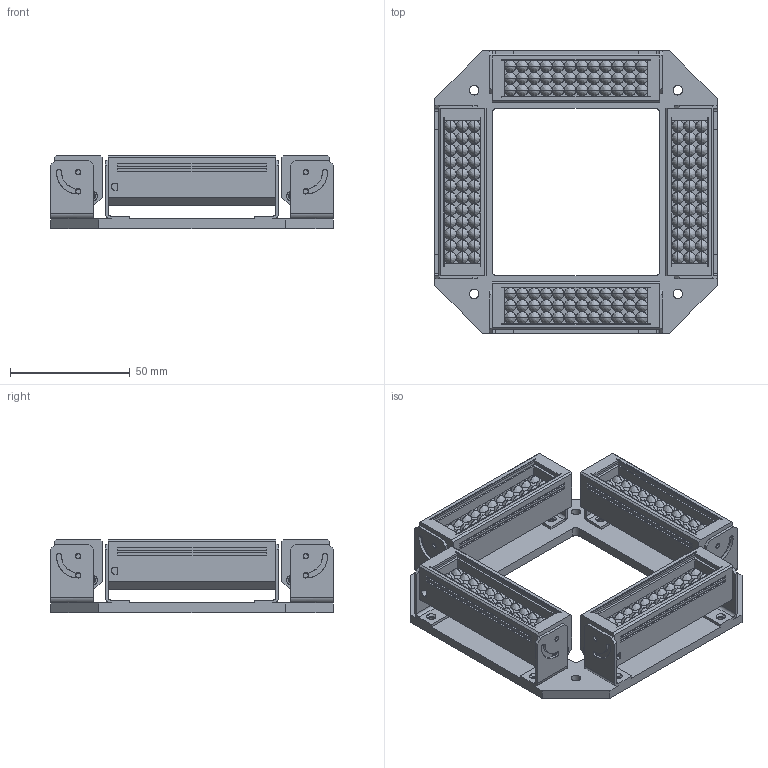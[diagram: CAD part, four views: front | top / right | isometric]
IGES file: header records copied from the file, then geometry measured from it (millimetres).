
Start section: SolidWorks IGES file using analytic representation for surfaces
Global section: file name: C:\Users\Administrator\Desktop\20200118093616790028.IGS; native system: SolidWorks 2019; preprocessor: SolidWorks 2019; author: Administrator; date: 200227.140039; units: millimetre
Bounding box: 118 x 118 x 30.5 mm (x, y, z)
Surface area: 78001.6 mm2 (no closed solid volume)
Topology: 0 solids, 0 shells, 1302 faces, 12304 edges, 12008 vertices
Faces by surface type: bspline 1018, revolution 284
